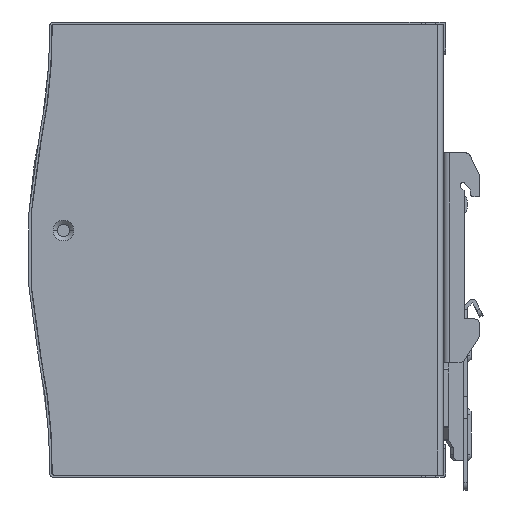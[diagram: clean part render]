
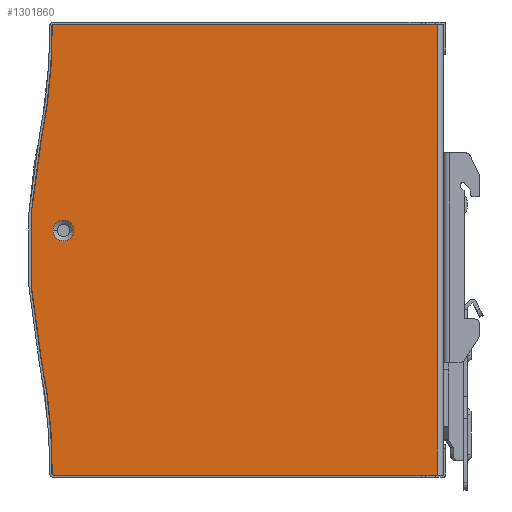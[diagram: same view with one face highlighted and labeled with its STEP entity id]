
A CAD part, front view. The second image highlights one B-rep face of the part: STEP entity #1301860.
In plain terms, the highlighted planar face has unit normal (0, -1, 0).
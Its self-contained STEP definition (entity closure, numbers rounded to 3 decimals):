
#1300350=CARTESIAN_POINT('',(95.953,13.236,-50.));
#1300360=VERTEX_POINT('',#1300350);
#1300390=CARTESIAN_POINT('',(95.953,13.236,74.));
#1300400=DIRECTION('',(0.,0.,-1.));
#1300410=VECTOR('',#1300400,124.);
#1300420=LINE('',#1300390,#1300410);
#1300430=CARTESIAN_POINT('',(95.953,13.236,74.));
#1300440=VERTEX_POINT('',#1300430);
#1300450=EDGE_CURVE('',#1300440,#1300360,#1300420,.T.);
#1301040=CARTESIAN_POINT('',(-13.667,13.236,0.));
#1301050=DIRECTION('',(0.,-1.,0.));
#1301060=DIRECTION('',(0.,0.,-1.));
#1301070=AXIS2_PLACEMENT_3D('',#1301040,#1301050,#1301060);
#1301080=PLANE('',#1301070);
#1301090=CARTESIAN_POINT('',(-6.847,13.236,
17.25));
#1301100=DIRECTION('',(0.,1.,0.));
#1301110=DIRECTION('',(-1.,0.,0.));
#1301120=AXIS2_PLACEMENT_3D('',#1301090,#1301100,#1301110);
#1301130=CIRCLE('',#1301120,2.85);
#1301140=CARTESIAN_POINT('',(-3.997,13.236,
17.25));
#1301150=VERTEX_POINT('',#1301140);
#1301160=CARTESIAN_POINT('',(-9.697,13.236,
17.25));
#1301170=VERTEX_POINT('',#1301160);
#1301180=EDGE_CURVE('',#1301150,#1301170,#1301130,.T.);
#1301190=ORIENTED_EDGE('',*,*,#1301180,.T.);
#1301200=EDGE_CURVE('',#1301170,#1301150,#1301130,.T.);
#1301210=ORIENTED_EDGE('',*,*,#1301200,.T.);
#1301220=EDGE_LOOP('',(#1301210,#1301190));
#1301230=FACE_BOUND('',#1301220,.T.);
#1301240=CARTESIAN_POINT('',(-9.439,13.236,-49.5));
#1301250=DIRECTION('',(0.,-1.,0.));
#1301260=DIRECTION('',(-1.,0.,0.));
#1301270=AXIS2_PLACEMENT_3D('',#1301240,#1301250,#1301260);
#1301280=CIRCLE('',#1301270,0.5);
#1301290=CARTESIAN_POINT('',(-9.939,13.236,
-49.495));
#1301300=VERTEX_POINT('',#1301290);
#1301310=CARTESIAN_POINT('',(-9.439,13.236,-50.));
#1301320=VERTEX_POINT('',#1301310);
#1301330=EDGE_CURVE('',#1301300,#1301320,#1301280,.T.);
#1301340=ORIENTED_EDGE('',*,*,#1301330,.T.);
#1301350=CARTESIAN_POINT('',(-159.932,13.236,
-48.019));
#1301360=DIRECTION('',(0.,-1.,0.));
#1301370=DIRECTION('',(0.,0.,-1.));
#1301380=AXIS2_PLACEMENT_3D('',#1301350,#1301360,#1301370);
#1301390=CIRCLE('',#1301380,150.);
#1301400=CARTESIAN_POINT('',(-12.964,13.236,
-18.01));
#1301410=VERTEX_POINT('',#1301400);
#1301420=EDGE_CURVE('',#1301300,#1301410,#1301390,.T.);
#1301430=ORIENTED_EDGE('',*,*,#1301420,.F.);
#1301440=CARTESIAN_POINT('',(134.003,13.236,12.
));
#1301450=DIRECTION('',(0.,-1.,0.));
#1301460=DIRECTION('',(0.,0.,-1.));
#1301470=AXIS2_PLACEMENT_3D('',#1301440,#1301450,#1301460);
#1301480=CIRCLE('',#1301470,150.);
#1301490=CARTESIAN_POINT('',(-12.964,13.236,42.01
));
#1301500=VERTEX_POINT('',#1301490);
#1301510=EDGE_CURVE('',#1301500,#1301410,#1301480,.T.);
#1301520=ORIENTED_EDGE('',*,*,#1301510,.T.);
#1301530=CARTESIAN_POINT('',(-159.932,13.236,
72.019));
#1301540=DIRECTION('',(0.,-1.,0.));
#1301550=DIRECTION('',(0.,0.,-1.));
#1301560=AXIS2_PLACEMENT_3D('',#1301530,#1301540,#1301550);
#1301570=CIRCLE('',#1301560,150.);
#1301580=CARTESIAN_POINT('',(-9.939,13.236,73.495
));
#1301590=VERTEX_POINT('',#1301580);
#1301600=EDGE_CURVE('',#1301500,#1301590,#1301570,.T.);
#1301610=ORIENTED_EDGE('',*,*,#1301600,.F.);
#1301620=CARTESIAN_POINT('',(-9.439,13.236,73.5));
#1301630=DIRECTION('',(0.,-1.,0.));
#1301640=DIRECTION('',(-1.,0.,0.));
#1301650=AXIS2_PLACEMENT_3D('',#1301620,#1301630,#1301640);
#1301660=CIRCLE('',#1301650,0.5);
#1301670=CARTESIAN_POINT('',(-9.439,13.236,74.));
#1301680=VERTEX_POINT('',#1301670);
#1301690=EDGE_CURVE('',#1301680,#1301590,#1301660,.T.);
#1301700=ORIENTED_EDGE('',*,*,#1301690,.T.);
#1301710=CARTESIAN_POINT('',(95.953,13.236,74.));
#1301720=DIRECTION('',(-1.,0.,0.));
#1301730=VECTOR('',#1301720,104.392);
#1301740=LINE('',#1301710,#1301730);
#1301750=EDGE_CURVE('',#1300440,#1301680,#1301740,.T.);
#1301760=ORIENTED_EDGE('',*,*,#1301750,.T.);
#1301770=ORIENTED_EDGE('',*,*,#1300450,.F.);
#1301780=CARTESIAN_POINT('',(95.953,13.236,-50.));
#1301790=DIRECTION('',(-1.,0.,0.));
#1301800=VECTOR('',#1301790,104.392);
#1301810=LINE('',#1301780,#1301800);
#1301820=EDGE_CURVE('',#1300360,#1301320,#1301810,.T.);
#1301830=ORIENTED_EDGE('',*,*,#1301820,.F.);
#1301840=EDGE_LOOP('',(#1301830,#1301770,#1301760,#1301700,#1301610,
#1301520,#1301430,#1301340));
#1301850=FACE_OUTER_BOUND('',#1301840,.T.);
#1301860=ADVANCED_FACE('',(#1301230,#1301850),#1301080,.T.);
